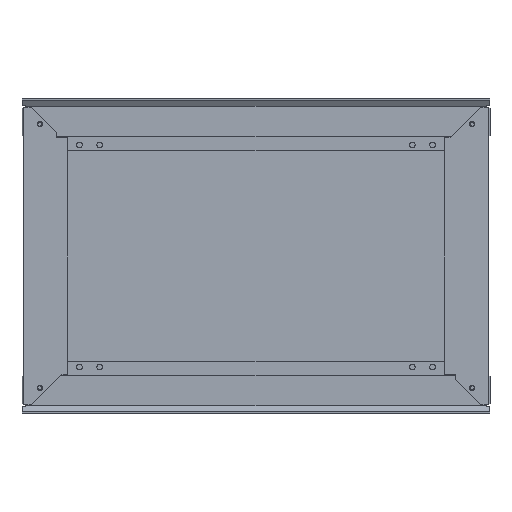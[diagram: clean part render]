
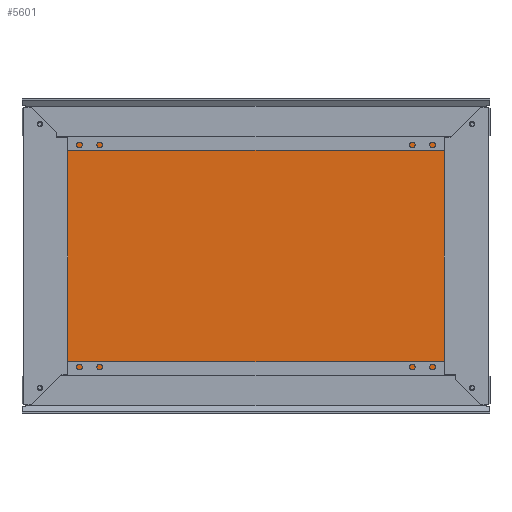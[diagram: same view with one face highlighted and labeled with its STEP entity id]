
A CAD part, front view. The second image highlights one B-rep face of the part: STEP entity #5601.
In plain terms, the highlighted planar face has unit normal (0, -1, 0) as drawn and (0, 0, -1) by its records, which use the part's own axes.
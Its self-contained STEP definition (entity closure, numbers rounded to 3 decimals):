
#4062=DIRECTION('',(0.,1.,0.));
#4063=VECTOR('',#4062,38.75);
#4064=CARTESIAN_POINT('',(0.,-149.75,-1.25));
#4065=LINE('',#4064,#4063);
#4076=DIRECTION('',(0.,1.,0.));
#4077=VECTOR('',#4076,178.);
#4078=CARTESIAN_POINT('',(0.,-89.,-1.25));
#4079=LINE('',#4078,#4077);
#4090=DIRECTION('',(0.,1.,0.));
#4091=VECTOR('',#4090,38.75);
#4092=CARTESIAN_POINT('',(0.,111.,-1.25));
#4093=LINE('',#4092,#4091);
#4322=DIRECTION('',(0.,1.,0.));
#4323=VECTOR('',#4322,38.75);
#4324=CARTESIAN_POINT('',(511.,111.,-1.25));
#4325=LINE('',#4324,#4323);
#4336=DIRECTION('',(0.,1.,0.));
#4337=VECTOR('',#4336,178.);
#4338=CARTESIAN_POINT('',(511.,-89.,-1.25));
#4339=LINE('',#4338,#4337);
#4350=DIRECTION('',(0.,1.,0.));
#4351=VECTOR('',#4350,38.75);
#4352=CARTESIAN_POINT('',(511.,-149.75,-1.25));
#4353=LINE('',#4352,#4351);
#4560=DIRECTION('',(1.,0.,0.));
#4561=VECTOR('',#4560,18.);
#4562=CARTESIAN_POINT('',(0.,-89.,-1.25));
#4563=LINE('',#4562,#4561);
#4567=DIRECTION('',(0.,-1.,0.));
#4568=VECTOR('',#4567,22.);
#4569=CARTESIAN_POINT('',(18.,-89.,-1.25));
#4570=LINE('',#4569,#4568);
#4574=DIRECTION('',(1.,0.,0.));
#4575=VECTOR('',#4574,18.);
#4576=CARTESIAN_POINT('',(0.,-111.,-1.25));
#4577=LINE('',#4576,#4575);
#4581=DIRECTION('',(1.,0.,0.));
#4582=VECTOR('',#4581,511.);
#4583=CARTESIAN_POINT('',(0.,-149.75,-1.25));
#4584=LINE('',#4583,#4582);
#4588=DIRECTION('',(-1.,0.,0.));
#4589=VECTOR('',#4588,18.);
#4590=CARTESIAN_POINT('',(511.,-111.,-1.25));
#4591=LINE('',#4590,#4589);
#4595=DIRECTION('',(0.,1.,0.));
#4596=VECTOR('',#4595,22.);
#4597=CARTESIAN_POINT('',(493.,-111.,-1.25));
#4598=LINE('',#4597,#4596);
#4602=DIRECTION('',(-1.,0.,0.));
#4603=VECTOR('',#4602,18.);
#4604=CARTESIAN_POINT('',(511.,-89.,-1.25));
#4605=LINE('',#4604,#4603);
#4609=DIRECTION('',(-1.,0.,0.));
#4610=VECTOR('',#4609,18.);
#4611=CARTESIAN_POINT('',(511.,89.,-1.25));
#4612=LINE('',#4611,#4610);
#4616=DIRECTION('',(0.,1.,0.));
#4617=VECTOR('',#4616,22.);
#4618=CARTESIAN_POINT('',(493.,89.,-1.25));
#4619=LINE('',#4618,#4617);
#4623=DIRECTION('',(-1.,0.,0.));
#4624=VECTOR('',#4623,18.);
#4625=CARTESIAN_POINT('',(511.,111.,-1.25));
#4626=LINE('',#4625,#4624);
#4630=DIRECTION('',(1.,0.,0.));
#4631=VECTOR('',#4630,18.);
#4632=CARTESIAN_POINT('',(0.,111.,-1.25));
#4633=LINE('',#4632,#4631);
#4637=DIRECTION('',(0.,-1.,0.));
#4638=VECTOR('',#4637,22.);
#4639=CARTESIAN_POINT('',(18.,111.,-1.25));
#4640=LINE('',#4639,#4638);
#4644=DIRECTION('',(1.,0.,0.));
#4645=VECTOR('',#4644,18.);
#4646=CARTESIAN_POINT('',(0.,89.,-1.25));
#4647=LINE('',#4646,#4645);
#4967=DIRECTION('',(1.,0.,0.));
#4968=VECTOR('',#4967,511.);
#4969=CARTESIAN_POINT('',(0.,149.75,-1.25));
#4970=LINE('',#4969,#4968);
#5036=CARTESIAN_POINT('',(0.,-149.75,-1.25));
#5037=VERTEX_POINT('',#5036);
#5038=CARTESIAN_POINT('',(0.,149.75,-1.25));
#5040=VERTEX_POINT('',#5038);
#5042=CARTESIAN_POINT('',(511.,-149.75,-1.25));
#5043=VERTEX_POINT('',#5042);
#5044=CARTESIAN_POINT('',(511.,149.75,-1.25));
#5046=VERTEX_POINT('',#5044);
#5112=CARTESIAN_POINT('',(0.,-89.,-1.25));
#5113=CARTESIAN_POINT('',(18.,-89.,-1.25));
#5114=VERTEX_POINT('',#5112);
#5115=VERTEX_POINT('',#5113);
#5116=CARTESIAN_POINT('',(18.,-111.,-1.25));
#5117=VERTEX_POINT('',#5116);
#5118=CARTESIAN_POINT('',(0.,-111.,-1.25));
#5119=VERTEX_POINT('',#5118);
#5120=CARTESIAN_POINT('',(0.,111.,-1.25));
#5121=CARTESIAN_POINT('',(18.,111.,-1.25));
#5122=VERTEX_POINT('',#5120);
#5123=VERTEX_POINT('',#5121);
#5124=CARTESIAN_POINT('',(18.,89.,-1.25));
#5125=VERTEX_POINT('',#5124);
#5126=CARTESIAN_POINT('',(0.,89.,-1.25));
#5127=VERTEX_POINT('',#5126);
#5128=CARTESIAN_POINT('',(511.,89.,-1.25));
#5129=CARTESIAN_POINT('',(493.,89.,-1.25));
#5130=VERTEX_POINT('',#5128);
#5131=VERTEX_POINT('',#5129);
#5132=CARTESIAN_POINT('',(493.,111.,-1.25));
#5133=VERTEX_POINT('',#5132);
#5134=CARTESIAN_POINT('',(511.,111.,-1.25));
#5135=VERTEX_POINT('',#5134);
#5136=CARTESIAN_POINT('',(511.,-111.,-1.25));
#5137=CARTESIAN_POINT('',(493.,-111.,-1.25));
#5138=VERTEX_POINT('',#5136);
#5139=VERTEX_POINT('',#5137);
#5140=CARTESIAN_POINT('',(493.,-89.,-1.25));
#5141=VERTEX_POINT('',#5140);
#5142=CARTESIAN_POINT('',(511.,-89.,-1.25));
#5143=VERTEX_POINT('',#5142);
#5561=CARTESIAN_POINT('',(0.,-149.75,-1.25));
#5562=DIRECTION('',(0.,0.,-1.));
#5563=DIRECTION('',(0.,1.,0.));
#5564=AXIS2_PLACEMENT_3D('',#5561,#5562,#5563);
#5565=PLANE('',#5564);
#5567=ORIENTED_EDGE('',*,*,#5566,.T.);
#5569=ORIENTED_EDGE('',*,*,#5568,.T.);
#5571=ORIENTED_EDGE('',*,*,#5570,.F.);
#5572=ORIENTED_EDGE('',*,*,#5233,.F.);
#5573=ORIENTED_EDGE('',*,*,#5556,.T.);
#5574=ORIENTED_EDGE('',*,*,#5382,.T.);
#5576=ORIENTED_EDGE('',*,*,#5575,.T.);
#5578=ORIENTED_EDGE('',*,*,#5577,.T.);
#5580=ORIENTED_EDGE('',*,*,#5579,.F.);
#5581=ORIENTED_EDGE('',*,*,#5374,.T.);
#5583=ORIENTED_EDGE('',*,*,#5582,.T.);
#5585=ORIENTED_EDGE('',*,*,#5584,.T.);
#5587=ORIENTED_EDGE('',*,*,#5586,.F.);
#5588=ORIENTED_EDGE('',*,*,#5366,.T.);
#5590=ORIENTED_EDGE('',*,*,#5589,.F.);
#5591=ORIENTED_EDGE('',*,*,#5249,.F.);
#5593=ORIENTED_EDGE('',*,*,#5592,.T.);
#5595=ORIENTED_EDGE('',*,*,#5594,.T.);
#5597=ORIENTED_EDGE('',*,*,#5596,.F.);
#5598=ORIENTED_EDGE('',*,*,#5241,.F.);
#5599=EDGE_LOOP('',(#5567,#5569,#5571,#5572,#5573,#5574,#5576,#5578,#5580,#5581,
#5583,#5585,#5587,#5588,#5590,#5591,#5593,#5595,#5597,#5598));
#5600=FACE_OUTER_BOUND('',#5599,.F.);
#5233=EDGE_CURVE('',#5037,#5119,#4065,.T.);
#5241=EDGE_CURVE('',#5114,#5127,#4079,.T.);
#5249=EDGE_CURVE('',#5122,#5040,#4093,.T.);
#5366=EDGE_CURVE('',#5135,#5046,#4325,.T.);
#5374=EDGE_CURVE('',#5143,#5130,#4339,.T.);
#5382=EDGE_CURVE('',#5043,#5138,#4353,.T.);
#5556=EDGE_CURVE('',#5037,#5043,#4584,.T.);
#5566=EDGE_CURVE('',#5114,#5115,#4563,.T.);
#5568=EDGE_CURVE('',#5115,#5117,#4570,.T.);
#5570=EDGE_CURVE('',#5119,#5117,#4577,.T.);
#5575=EDGE_CURVE('',#5138,#5139,#4591,.T.);
#5577=EDGE_CURVE('',#5139,#5141,#4598,.T.);
#5579=EDGE_CURVE('',#5143,#5141,#4605,.T.);
#5582=EDGE_CURVE('',#5130,#5131,#4612,.T.);
#5584=EDGE_CURVE('',#5131,#5133,#4619,.T.);
#5586=EDGE_CURVE('',#5135,#5133,#4626,.T.);
#5589=EDGE_CURVE('',#5040,#5046,#4970,.T.);
#5592=EDGE_CURVE('',#5122,#5123,#4633,.T.);
#5594=EDGE_CURVE('',#5123,#5125,#4640,.T.);
#5596=EDGE_CURVE('',#5127,#5125,#4647,.T.);
#5601=ADVANCED_FACE('',(#5600),#5565,.T.);
